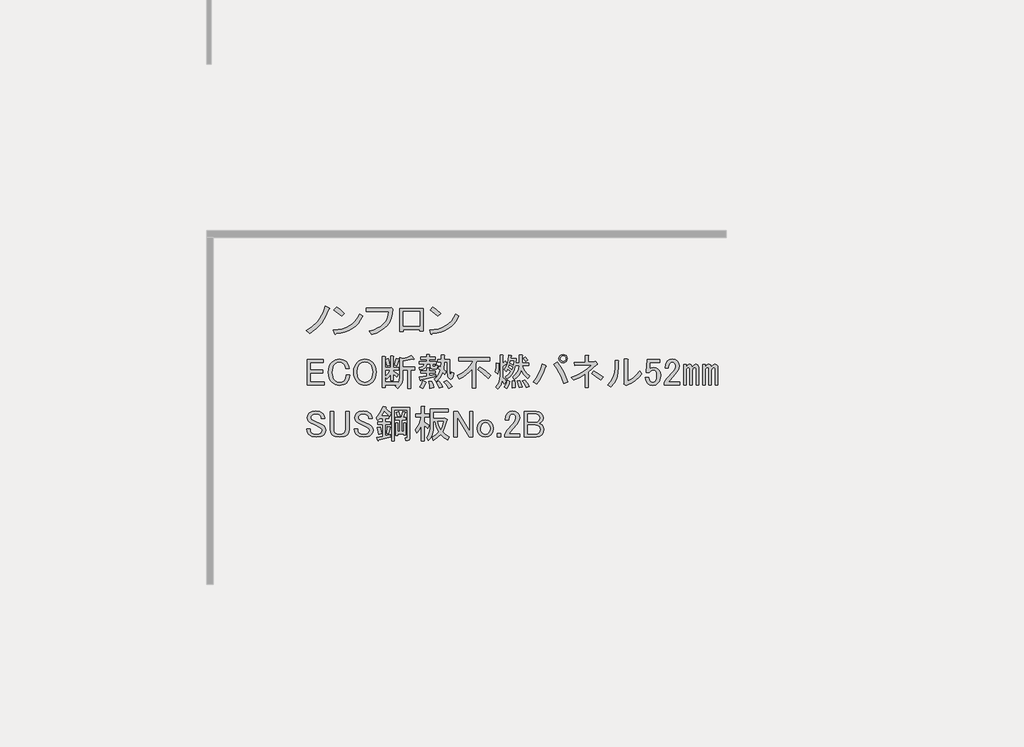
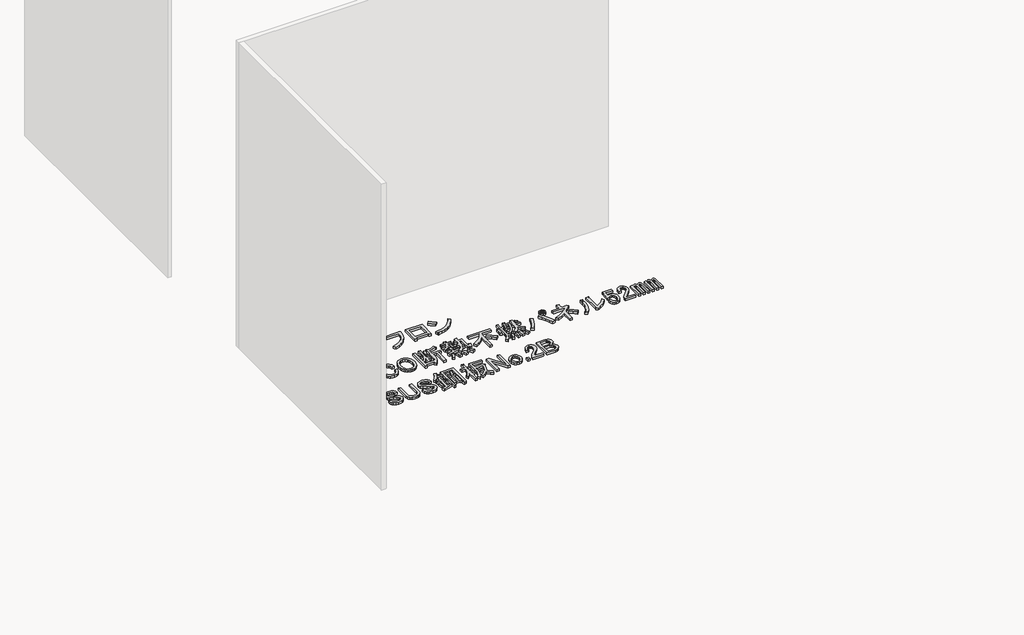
# One storey, part 104 of 117: 1 proxy.
"""IFC4 building model written with IfcOpenShell, lengths in millimetres."""

import ifcopenshell
import ifcopenshell.guid

model = None  # the IFC model being written
_history = None  # IfcOwnerHistory: only IFC2X3 demands one
_inside = {}  # id of a spatial element -> (the spatial element, [elements in it])
_under = {}  # id of a project, library or spatial element -> (it, [spatial elements below it])
_declared = {}  # id of a project -> (the project, [libraries it declares])
_typed = {}  # id of a type object -> (the type object, [elements of that type])
_made_of = {}  # id of a material, layer set ... -> (it, [elements and type objects made of it])


def new_model(schema):
    """Start an empty IFC model of exactly this schema.

    Asked for "IFC4X3", IfcOpenShell would pick the latest addendum, in which some entities
    have other attributes; the version numbers below select the first issue.
    IFC2X3 requires an IfcOwnerHistory on every rooted entity: one is made here for all.
    """
    global model, _history
    if schema == "IFC4X3":
        model = ifcopenshell.file(schema_version=(4, 3, 0, 0))
    else:
        model = ifcopenshell.file(schema=schema)
    _inside.clear()
    _under.clear()
    _declared.clear()
    _typed.clear()
    _made_of.clear()
    _history = None
    if model.schema == "IFC2X3":
        org = make("IfcOrganization", Name="unknown")
        user = make(
            "IfcPersonAndOrganization",
            ThePerson=make("IfcPerson", FamilyName="unknown"),
            TheOrganization=org,
        )
        app = make(
            "IfcApplication",
            ApplicationDeveloper=org,
            Version="unknown",
            ApplicationFullName="unknown",
            ApplicationIdentifier="unknown",
        )
        _history = make(
            "IfcOwnerHistory",
            OwningUser=user,
            OwningApplication=app,
            ChangeAction="ADDED",
            CreationDate=0,
        )
    return model


def make(cls, **values):
    """One entity of the class cls with the attributes given. An attribute that is None is left unset."""
    return model.create_entity(
        cls, **{name: value for name, value in values.items() if value is not None}
    )


def rooted(cls, **values):
    """An entity with a GlobalId (a new one), such as an element, a storey or a relation."""
    return make(cls, GlobalId=ifcopenshell.guid.new(), OwnerHistory=_history, **values)


def si_unit(unit_type, name, prefix=None):
    """IfcSIUnit, for example si_unit("LENGTHUNIT", "METRE", prefix="MILLI")."""
    return make("IfcSIUnit", UnitType=unit_type, Prefix=prefix, Name=name)


def assignment(units):
    """IfcUnitAssignment: the units of a project."""
    return None if units is None else make("IfcUnitAssignment", Units=units)


def point(xyz):
    """IfcCartesianPoint."""
    return None if xyz is None else make("IfcCartesianPoint", Coordinates=xyz)


def direction(xyz):
    """IfcDirection."""
    return None if xyz is None else make("IfcDirection", DirectionRatios=xyz)


def frame(location, z_axis=None, x_axis=None):
    """IfcAxis2Placement3D, a coordinate frame: its origin and axes. An axis left out is left unset."""
    return make(
        "IfcAxis2Placement3D",
        Location=point(location),
        Axis=direction(z_axis),
        RefDirection=direction(x_axis),
    )


def origin():
    """The frame at (0, 0, 0) with its axes left unset."""
    return frame((0.0, 0.0, 0.0))


def place(relative_to, where):
    """IfcLocalPlacement: puts the frame where relative to a parent placement (None: the world)."""
    return make(
        "IfcLocalPlacement", PlacementRelTo=relative_to, RelativePlacement=where
    )


def context(
    kind, dimensions, precision=None, world=None, true_north=None, identifier=None
):
    """IfcGeometricRepresentationContext, for example the 3D "Model" context."""
    return make(
        "IfcGeometricRepresentationContext",
        ContextIdentifier=identifier,
        ContextType=kind,
        CoordinateSpaceDimension=dimensions,
        Precision=precision,
        WorldCoordinateSystem=world,
        TrueNorth=true_north,
    )


def project(units=None, contexts=None):
    """IfcProject with its units and contexts."""
    return rooted(
        "IfcProject",
        Name="project",
        RepresentationContexts=contexts,
        UnitsInContext=assignment(units),
    )


def spatial(cls, under=None, at=None, **own):
    """A site, building, storey or space (cls), placed at a placement, below another one or the project."""
    s = rooted(cls, ObjectPlacement=at, **own)
    if under is not None:
        _under.setdefault(under.id(), (under, []))[1].append(s)
    return s


def polyline(points):
    """IfcPolyline through the points."""
    return make("IfcPolyline", Points=[point(p) for p in points])


def outline(outer, holes=None, kind="AREA"):
    """IfcArbitraryClosedProfileDef: a profile drawn as a closed curve; with holes, ...WithVoids."""
    if holes is None:
        return make("IfcArbitraryClosedProfileDef", ProfileType=kind, OuterCurve=outer)
    return make(
        "IfcArbitraryProfileDefWithVoids",
        ProfileType=kind,
        OuterCurve=outer,
        InnerCurves=holes,
    )


def extrude(swept, where, along, depth):
    """IfcExtrudedAreaSolid: the profile swept, set in the frame where, extruded along a direction by depth."""
    return make(
        "IfcExtrudedAreaSolid",
        SweptArea=swept,
        Position=where,
        ExtrudedDirection=direction(along),
        Depth=depth,
    )


def shape(context_of_items, identifier, shape_type, items):
    """IfcShapeRepresentation: the items that make up one representation, for example the "Body"."""
    return make(
        "IfcShapeRepresentation",
        ContextOfItems=context_of_items,
        RepresentationIdentifier=identifier,
        RepresentationType=shape_type,
        Items=items,
    )


def made_of(thing, what):
    """Note that an element or type object is made of a material, layer set ...; save() writes the relation."""
    if what is not None:
        _made_of.setdefault(what.id(), (what, []))[1].append(thing)
    return thing


def element(
    cls,
    number,
    at=None,
    inside=None,
    cuts=None,
    type_object=None,
    material=None,
    context=None,
    identifier="Body",
    shape_type=None,
    held_by="IfcProductDefinitionShape",
    body=None,
    shapes=None,
    **own,
):
    """One element of the class cls, such as IfcWall. Its Tag is "e" and its number.

    at: its placement. inside: the storey or other place that contains it. cuts: it is an
    opening in that element (IfcRelVoidsElement). A single representation is given by context,
    identifier, shape_type and body (its items); several are given by shapes. held_by: the class
    of the entity that holds the representations. save() writes the other relations.
    """
    e = rooted(cls, Tag="e%d" % number, ObjectPlacement=at, **own)
    if body is not None:
        shapes = [shape(context, identifier, shape_type, body)]
    if shapes is not None:
        e.Representation = make(held_by, Representations=shapes)
    if inside is not None:
        _inside.setdefault(inside.id(), (inside, []))[1].append(e)
    if cuts is not None:
        rooted(
            "IfcRelVoidsElement", RelatingBuildingElement=cuts, RelatedOpeningElement=e
        )
    if type_object is not None:
        _typed.setdefault(type_object.id(), (type_object, []))[1].append(e)
    return made_of(e, material)


def aggregate(whole, parts):
    """IfcRelAggregates: a whole, such as a stair, and the parts it consists of."""
    return rooted("IfcRelAggregates", RelatingObject=whole, RelatedObjects=parts)


def save(model, path):
    """Write the relations noted so far, then the file.

    IfcRelAggregates (storeys below a building ...), IfcRelContainedInSpatialStructure (elements
    in a storey), IfcRelDefinesByType, IfcRelAssociatesMaterial and IfcRelDeclares: one each for
    every whole, place, type object, material and project.
    """
    for whole, parts in _under.values():
        aggregate(whole, parts)
    for where, things in _inside.values():
        rooted(
            "IfcRelContainedInSpatialStructure",
            RelatedElements=things,
            RelatingStructure=where,
        )
    for kind, things in _typed.values():
        rooted("IfcRelDefinesByType", RelatedObjects=things, RelatingType=kind)
    for what, things in _made_of.values():
        rooted("IfcRelAssociatesMaterial", RelatedObjects=things, RelatingMaterial=what)
    for by, libraries in _declared.values():
        rooted("IfcRelDeclares", RelatingContext=by, RelatedDefinitions=libraries)
    model.write(path)


model = new_model("IFC4")

# Units and contexts
model_context = context("Model", 3, world=origin())
ifc_project = project(units=[si_unit("LENGTHUNIT", "METRE", prefix="MILLI")], contexts=[model_context])

# Site, building, storey
site = spatial("IfcSite", under=ifc_project)
building = spatial("IfcBuilding", under=site)
storey = spatial("IfcBuildingStorey", under=building, Name="レベル 1", Elevation=500.0)

# Proxy
placement = place(None, origin())
element("IfcBuildingElementProxy", 1, Name="200㎜\u3000MS Pゴシック", ObjectType="200㎜\u3000MS Pゴシック", at=placement, inside=storey, context=model_context, shape_type="SweptSolid", body=[
    extrude(outline(polyline([(40940.1706985, 7396.4503118), (40914.5952502, 7336.6784775), (40886.146156, 7290.7001434), (40844.4782907, 7245.2965385), (40795.3389462, 7207.939142), (40767.7519457, 7229.7788507), (40815.4544673, 7260.2394971), (40855.1107805, 7298.7463519), (40872.4963381, 7322.6694538), (40887.8703435, 7350.7593423), (40901.2327969, 7383.0160173), (40912.5836981, 7419.4394788), (40943.6190736, 7405.6459786), (40946.7800841, 7401.0481452), (40940.1706985, 7396.4503118)])), frame((0.0, 0.0, 500.0), z_axis=(0.0, 0.0, 1.0), x_axis=(1.0, 0.0, 0.0)), (0.0, 0.0, 1.0), 25.0),
    extrude(outline(polyline([(41039.8977052, 7341.2763109), (40981.2753292, 7388.4041033), (41000.8161212, 7412.5427287), (41028.1157571, 7392.7145721), (41061.7374138, 7363.1160196), (41039.8977052, 7341.2763109)])), frame((0.0, 0.0, 500.0), z_axis=(0.0, 0.0, 1.0), x_axis=(1.0, 0.0, 0.0)), (0.0, 0.0, 1.0), 25.0),
    extrude(outline(polyline([(41201.9713328, 7341.2763109), (41185.447869, 7311.534076), (41166.3381239, 7285.5275808), (41144.6420975, 7263.2568252), (41120.3597898, 7244.7218093), (41093.4912008, 7229.922533), (41064.0363306, 7218.8589964), (41031.995179, 7211.5311994), (40997.3677461, 7207.939142), (40991.6204544, 7199.8929336), (40985.8731626, 7205.6402253), (40976.6774958, 7235.5261425), (41012.5082679, 7238.2022252), (41045.2857912, 7244.5062859), (41075.0100658, 7254.4383244), (41101.6810916, 7267.9983409), (41125.2988687, 7285.1863354), (41145.863397, 7306.0023077), (41163.3746766, 7330.446258), (41177.8327074, 7358.5181862), (41201.9713328, 7341.2763109)])), frame((0.0, 0.0, 500.0), z_axis=(0.0, 0.0, 1.0), x_axis=(1.0, 0.0, 0.0)), (0.0, 0.0, 1.0), 25.0),
    extrude(outline(polyline([(41252.7314136, 7226.3304757), (41286.514713, 7236.0110702), (41316.0234641, 7248.3857078), (41341.257667, 7263.4543884), (41362.2173217, 7281.217112), (41378.902428, 7301.6738786), (41391.3129862, 7324.8246882), (41399.4489961, 7350.6695409), (41403.3104577, 7379.2084365), (41230.8917049, 7379.2084365), (41230.8917049, 7404.4965202), (41405.6093744, 7404.4965202), (41421.7017914, 7407.9448953), (41434.3458332, 7396.4503118), (41430.825617, 7359.9550091), (41422.5638851, 7326.9080815), (41409.5606375, 7297.3095289), (41391.8158742, 7271.1593514), (41369.3295952, 7248.457549), (41342.1018005, 7229.2041216), (41310.1324901, 7213.3990692), (41273.421664, 7201.0423919), (41252.7314136, 7226.3304757)])), frame((0.0, 0.0, 500.0), z_axis=(0.0, 0.0, 1.0), x_axis=(1.0, 0.0, 0.0)), (0.0, 0.0, 1.0), 25.0),
    extrude(outline(polyline([(41667.455987, 7227.479934), (41641.0184449, 7227.479934), (41641.0184449, 7240.1239759), (41513.4285679, 7240.1239759), (41513.4285679, 7221.7326423), (41486.9910258, 7221.7326423), (41486.9910258, 7401.0481452), (41667.455987, 7401.0481452), (41667.455987, 7227.479934)]), holes=[polyline([(41513.4285679, 7375.7600614), (41513.4285679, 7265.4120596), (41641.0184449, 7265.4120596), (41641.0184449, 7375.7600614), (41513.4285679, 7375.7600614)])]), frame((0.0, 0.0, 500.0), z_axis=(0.0, 0.0, 1.0), x_axis=(1.0, 0.0, 0.0)), (0.0, 0.0, 1.0), 25.0),
    extrude(outline(polyline([(41943.5099049, 7341.2763109), (41926.9864411, 7311.534076), (41907.876696, 7285.5275808), (41886.1806696, 7263.2568252), (41861.8983619, 7244.7218093), (41835.0297729, 7229.922533), (41805.5749026, 7218.8589964), (41773.5337511, 7211.5311994), (41738.9063182, 7207.939142), (41733.1590264, 7199.8929336), (41727.4117347, 7205.6402253), (41718.2160679, 7235.5261425), (41754.0468399, 7238.2022252), (41786.8243633, 7244.5062859), (41816.5486378, 7254.4383244), (41843.2196637, 7267.9983409), (41866.8374407, 7285.1863354), (41887.4019691, 7306.0023077), (41904.9132486, 7330.446258), (41919.3712795, 7358.5181862), (41943.5099049, 7341.2763109)])), frame((0.0, 0.0, 500.0), z_axis=(0.0, 0.0, 1.0), x_axis=(1.0, 0.0, 0.0)), (0.0, 0.0, 1.0), 25.0),
    extrude(outline(polyline([(41781.4362772, 7341.2763109), (41722.8139013, 7388.4041033), (41742.3546933, 7412.5427287), (41769.6543291, 7392.7145721), (41803.2759859, 7363.1160196), (41781.4362772, 7341.2763109)])), frame((0.0, 0.0, 500.0), z_axis=(0.0, 0.0, 1.0), x_axis=(1.0, 0.0, 0.0)), (0.0, 0.0, 1.0), 25.0),
    extrude(outline(polyline([(40773.4992375, 7007.9448953), (40899.9396562, 7007.9448953), (40899.9396562, 6986.1051866), (40799.9367796, 6986.1051866), (40799.9367796, 6925.183894), (40893.0429061, 6925.183894), (40893.0429061, 6903.3441853), (40799.9367796, 6903.3441853), (40799.9367796, 6833.2272258), (40905.686948, 6833.2272258), (40905.686948, 6811.3875171), (40773.4992375, 6811.3875171), (40773.4992375, 7007.9448953)])), frame((0.0, 0.0, 500.0), z_axis=(0.0, 0.0, 1.0), x_axis=(1.0, 0.0, 0.0)), (0.0, 0.0, 1.0), 25.0),
    extrude(outline(polyline([(40937.7798252, 6909.091477), (40939.5758538, 6933.014579), (40944.9639399, 6954.2077173), (40953.9440832, 6972.6708921), (40966.516284, 6988.4041033), (40991.5170031, 7004.7838848), (41022.8397432, 7010.243812), (41053.5877541, 7005.358614), (41076.8642858, 6990.70302), (41092.6693381, 6967.1391238), (41098.7039944, 6937.8279358), (41071.116994, 6937.8279358), (41066.231796, 6959.0929153), (41056.1740354, 6974.6106031), (41040.9437123, 6984.9557283), (41022.8397432, 6988.4041033), (41003.2989512, 6984.3809991), (40986.0570759, 6972.3116864), (40977.0050914, 6960.6015794), (40970.5393882, 6946.1615089), (40965.3668256, 6909.091477), (40970.5393882, 6872.0214452), (40977.0050914, 6857.5813746), (40986.0570759, 6845.8712677), (41002.7242221, 6834.6640487), (41022.8397432, 6830.9283091), (41043.242629, 6834.0893196), (41058.4729521, 6843.572351), (41070.5422648, 6863.1131429), (41074.5653691, 6889.550685), (41102.1523695, 6889.550685), (41095.8303486, 6854.7795699), (41088.7899162, 6840.6268639), (41079.1632025, 6828.6293924), (41068.3151893, 6820.0802959), (41055.3119417, 6813.9737984), (41022.8397432, 6809.0886004), (40991.5170031, 6814.5485276), (40966.516284, 6830.9283091), (40953.9440832, 6846.5896791), (40944.9639399, 6864.8373305), (40939.5758538, 6885.6712631), (40937.7798252, 6909.091477)])), frame((0.0, 0.0, 500.0), z_axis=(0.0, 0.0, 1.0), x_axis=(1.0, 0.0, 0.0)), (0.0, 0.0, 1.0), 25.0),
    extrude(outline(polyline([(41133.1417667, 6910.2409354), (41134.8659542, 6933.0864201), (41140.0385168, 6953.3456236), (41148.6594544, 6971.0185457), (41160.7287671, 6986.1051866), (41173.4446501, 6996.6658352), (41187.4536738, 7004.2091557), (41202.7558381, 7008.7351479), (41219.3511431, 7010.243812), (41235.946448, 7008.7351479), (41251.2486123, 7004.2091557), (41265.257636, 6996.6658352), (41277.973519, 6986.1051866), (41290.0428317, 6971.0185457), (41298.6637694, 6953.3456236), (41303.836332, 6933.0864201), (41305.5605195, 6910.2409354), (41303.836332, 6887.3954506), (41298.6637694, 6867.1362472), (41290.0428317, 6849.463325), (41277.973519, 6834.3766841), (41265.257636, 6823.8160355), (41251.2486123, 6816.2727151), (41235.946448, 6811.7467228), (41219.3511431, 6810.2380587), (41202.7558381, 6811.7467228), (41187.4536738, 6816.2727151), (41173.4446501, 6823.8160355), (41160.7287671, 6834.3766841), (41148.6594544, 6849.463325), (41140.0385168, 6867.1362472), (41134.8659542, 6887.3954506), (41133.1417667, 6910.2409354)]), holes=[polyline([(41219.3511431, 6988.4041033), (41198.6608927, 6984.0936345), (41180.2695591, 6971.162228), (41171.7204626, 6960.0268502), (41165.6139651, 6946.1615089), (41160.7287671, 6910.2409354), (41165.6139651, 6874.3203619), (41171.7204626, 6860.4550205), (41180.2695591, 6849.3196427), (41198.6608927, 6836.3882363), (41219.3511431, 6832.0777674), (41240.0413934, 6836.3882363), (41258.432727, 6849.3196427), (41266.9818235, 6860.4550205), (41273.088321, 6874.3203619), (41277.973519, 6910.2409354), (41273.088321, 6946.1615089), (41266.9818235, 6960.0268502), (41258.432727, 6971.162228), (41240.0413934, 6984.0936345), (41219.3511431, 6988.4041033)])]), frame((0.0, 0.0, 500.0), z_axis=(0.0, 0.0, 1.0), x_axis=(1.0, 0.0, 0.0)), (0.0, 0.0, 1.0), 25.0),
    extrude(outline(polyline([(41444.3691101, 6964.2654779), (41461.6109854, 7017.1405621), (41482.3012357, 7011.3932704), (41484.0254232, 7008.2322599), (41480.002319, 7005.6459786), (41462.7604437, 6957.3687278), (41444.3691101, 6964.2654779)])), frame((0.0, 0.0, 500.0), z_axis=(0.0, 0.0, 1.0), x_axis=(1.0, 0.0, 0.0)), (0.0, 0.0, 1.0), 25.0),
    extrude(outline(polyline([(41598.3965292, 7012.5427287), (41596.6723417, 7007.9448953), (41589.2008624, 7010.243812), (41512.1871528, 6997.5997701), (41512.1871528, 6948.173061), (41604.143821, 6948.173061), (41604.143821, 6926.3333523), (41573.1084455, 6926.3333523), (41573.1084455, 6786.0994334), (41550.1192785, 6786.0994334), (41550.1192785, 6926.3333523), (41512.1871528, 6926.3333523), (41512.1871528, 6876.9066432), (41509.6008716, 6849.1041193), (41501.8420277, 6824.3189236), (41488.9106212, 6802.551056), (41470.8066522, 6783.8005167), (41453.5647769, 6803.3413086), (41463.9099021, 6812.5369755), (41374.2521506, 6812.5369755), (41374.2521506, 6790.6972668), (41351.2629836, 6790.6972668), (41351.2629836, 7029.784604), (41373.1026922, 7029.784604), (41377.9878902, 7027.4856873), (41374.2521506, 7022.8878539), (41374.2521506, 6947.0236026), (41416.7821096, 6947.0236026), (41416.7821096, 7034.3824374), (41435.1734433, 7034.3824374), (41440.0586413, 7032.0835207), (41436.3229016, 7027.4856873), (41436.3229016, 6947.0236026), (41480.002319, 6947.0236026), (41480.002319, 6928.632269), (41436.3229016, 6928.632269), (41436.3229016, 6919.4366022), (41476.5539439, 6892.9990601), (41462.7604437, 6871.1593514), (41436.3229016, 6897.5968935), (41436.3229016, 6844.7218093), (41416.7821096, 6844.7218093), (41416.7821096, 6892.9990601), (41403.5633386, 6873.1709035), (41389.1951092, 6857.3658512), (41376.5510673, 6875.7571848), (41398.390776, 6899.8958102), (41415.6326513, 6928.632269), (41374.2521506, 6928.632269), (41374.2521506, 6834.3766841), (41471.9561105, 6834.3766841), (41471.9561105, 6820.5831839), (41484.887517, 6844.7218093), (41489.1979858, 6878.0561015), (41489.1979858, 7022.8878539), (41511.0376945, 7017.1405621), (41547.2456326, 7024.6120414), (41577.7062789, 7037.8308125), (41598.3965292, 7012.5427287)])), frame((0.0, 0.0, 500.0), z_axis=(0.0, 0.0, 1.0), x_axis=(1.0, 0.0, 0.0)), (0.0, 0.0, 1.0), 25.0),
    extrude(outline(polyline([(41390.3445675, 6956.2192695), (41377.7005257, 7006.7954369), (41397.2413176, 7013.6921871), (41405.0001615, 6989.5535617), (41409.8853595, 6963.1160196), (41390.3445675, 6956.2192695)])), frame((0.0, 0.0, 500.0), z_axis=(0.0, 0.0, 1.0), x_axis=(1.0, 0.0, 0.0)), (0.0, 0.0, 1.0), 25.0),
    extrude(outline(polyline([(41734.0326148, 6840.1239759), (41744.0903754, 6812.82434), (41748.9755734, 6790.6972668), (41720.2391146, 6784.949975), (41717.6528333, 6806.5023191), (41709.8939894, 6836.6756008), (41734.0326148, 6840.1239759)])), frame((0.0, 0.0, 500.0), z_axis=(0.0, 0.0, 1.0), x_axis=(1.0, 0.0, 0.0)), (0.0, 0.0, 1.0), 25.0),
    extrude(outline(polyline([(41790.356074, 6787.2488917), (41782.022501, 6811.9622463), (41768.5163654, 6833.2272258), (41789.2066157, 6841.2734343), (41806.1611264, 6819.7210902), (41817.9430745, 6796.4445585), (41790.356074, 6787.2488917)])), frame((0.0, 0.0, 500.0), z_axis=(0.0, 0.0, 1.0), x_axis=(1.0, 0.0, 0.0)), (0.0, 0.0, 1.0), 25.0),
    extrude(outline(polyline([(41689.2037391, 6835.5261425), (41692.6521141, 6830.6409445), (41686.9048224, 6827.479934), (41677.1344264, 6801.9044857), (41666.214572, 6782.6510583), (41643.225405, 6794.1456418), (41655.8694469, 6817.709538), (41666.214572, 6844.7218093), (41689.2037391, 6835.5261425)])), frame((0.0, 0.0, 500.0), z_axis=(0.0, 0.0, 1.0), x_axis=(1.0, 0.0, 0.0)), (0.0, 0.0, 1.0), 25.0),
    extrude(outline(polyline([(41721.3885729, 6972.3116864), (41696.1004892, 6972.3116864), (41691.5026558, 6954.8542877), (41681.1575306, 6941.5636755), (41665.0651137, 6932.4398498), (41643.225405, 6927.4828107), (41638.6275716, 6947.0236026), (41663.9156553, 6955.6445403), (41671.3871346, 6962.9723373), (41675.4102388, 6972.3116864), (41639.7770299, 6972.3116864), (41639.7770299, 6990.70302), (41693.8015725, 6990.70302), (41693.8015725, 7007.9448953), (41650.1221551, 7007.9448953), (41650.1221551, 7026.3362289), (41693.8015725, 7026.3362289), (41693.8015725, 7044.7275626), (41715.6412812, 7044.7275626), (41720.5264792, 7042.4286459), (41716.7907395, 7037.8308125), (41716.7907395, 7026.3362289), (41759.3206985, 7026.3362289), (41759.3206985, 7007.9448953), (41716.7907395, 7007.9448953), (41716.7907395, 6990.70302), (41769.6658237, 6990.70302), (41769.6658237, 6972.3116864), (41740.9293649, 6972.3116864), (41740.9293649, 6959.6676445), (41742.3661878, 6954.4950819), (41746.6766567, 6952.7708944), (41757.0217818, 6952.7708944), (41760.7575215, 6955.9319049), (41760.4701569, 6965.4149363), (41780.0109489, 6963.1160196), (41777.137303, 6941.5636755), (41771.8210581, 6936.1755894), (41763.9185319, 6934.3795608), (41739.7799066, 6934.3795608), (41725.9864063, 6939.2647588), (41721.3885729, 6953.9203528), (41721.3885729, 6972.3116864)])), frame((0.0, 0.0, 500.0), z_axis=(0.0, 0.0, 1.0), x_axis=(1.0, 0.0, 0.0)), (0.0, 0.0, 1.0), 25.0),
    extrude(outline(polyline([(41852.4268251, 6989.5535617), (41830.5871164, 6989.5535617), (41825.989283, 6932.0806441), (41845.5300749, 6913.6893104), (41835.1849498, 6891.8496017), (41819.0925328, 6907.9420187), (41799.8391054, 6870.2972576), (41769.6658237, 6837.8250592), (41752.4239484, 6858.5153095), (41767.5105893, 6870.4409399), (41780.585678, 6885.5275808), (41791.6492147, 6903.7752321), (41800.7011992, 6925.183894), (41783.4593239, 6940.1268525), (41791.5055324, 6957.3687278), (41805.2990326, 6947.0236026), (41807.5979493, 6989.5535617), (41780.0109489, 6989.5535617), (41780.0109489, 7007.9448953), (41807.5979493, 7007.9448953), (41807.5979493, 7042.4286459), (41829.437658, 7042.4286459), (41834.322856, 7040.1297292), (41830.5871164, 7035.5318957), (41830.5871164, 7007.9448953), (41871.967617, 7007.9448953), (41871.967617, 6911.3903937), (41875.4159921, 6887.2517683), (41878.6488437, 6885.2402162), (41881.4506484, 6888.4012267), (41885.7611173, 6910.2409354), (41905.3019092, 6903.3441853), (41900.775917, 6876.5474374), (41892.945232, 6860.5268616), (41881.8098542, 6855.2824579), (41867.3697836, 6860.8142262), (41860.8322393, 6868.1420232), (41856.1625647, 6879.780289), (41852.4268251, 6915.9882271), (41852.4268251, 6989.5535617)])), frame((0.0, 0.0, 500.0), z_axis=(0.0, 0.0, 1.0), x_axis=(1.0, 0.0, 0.0)), (0.0, 0.0, 1.0), 25.0),
    extrude(outline(polyline([(41651.2716134, 6850.4691011), (41649.2600613, 6845.5839031), (41645.5243217, 6847.020726), (41639.7770299, 6871.1593514), (41694.9510308, 6879.2055599), (41694.9510308, 6902.1947269), (41651.2716134, 6902.1947269), (41651.2716134, 6920.5860605), (41694.9510308, 6920.5860605), (41694.9510308, 6943.5752276), (41713.3423645, 6943.5752276), (41718.2275625, 6941.2763109), (41714.4918228, 6936.6784775), (41714.4918228, 6920.5860605), (41759.3206985, 6920.5860605), (41759.3206985, 6902.1947269), (41714.4918228, 6902.1947269), (41714.4918228, 6882.6539349), (41765.0679903, 6891.8496017), (41765.0679903, 6875.7571848), (41651.2716134, 6850.4691011)])), frame((0.0, 0.0, 500.0), z_axis=(0.0, 0.0, 1.0), x_axis=(1.0, 0.0, 0.0)), (0.0, 0.0, 1.0), 25.0),
    extrude(outline(polyline([(41848.97845, 6845.8712677), (41873.6918046, 6824.6062881), (41892.6578674, 6799.8929336), (41866.2203253, 6784.949975), (41846.9668979, 6814.5485276), (41828.2881997, 6834.3766841), (41848.97845, 6845.8712677)])), frame((0.0, 0.0, 500.0), z_axis=(0.0, 0.0, 1.0), x_axis=(1.0, 0.0, 0.0)), (0.0, 0.0, 1.0), 25.0),
    extrude(outline(polyline([(42167.3784135, 6861.9636846), (42128.2968295, 6900.1831748), (42086.9163289, 6929.7817274), (42103.0087458, 6950.4719777), (42146.6881632, 6922.3102481), (42188.0686638, 6883.8033933), (42167.3784135, 6861.9636846)])), frame((0.0, 0.0, 500.0), z_axis=(0.0, 0.0, 1.0), x_axis=(1.0, 0.0, 0.0)), (0.0, 0.0, 1.0), 25.0),
    extrude(outline(polyline([(41940.9351182, 7022.8878539), (42182.3213721, 7022.8878539), (42182.3213721, 6997.5997701), (42082.3184955, 6997.5997701), (42071.9733703, 6973.4611447), (42071.9733703, 6787.2488917), (42045.5358282, 6787.2488917), (42045.5358282, 6934.3795608), (42024.7018956, 6911.1030291), (42001.2816816, 6890.7001434), (41975.2751864, 6873.1709035), (41946.6824099, 6858.5153095), (41930.589993, 6884.9528516), (41970.174465, 6905.3557374), (42003.8679629, 6930.9311857), (42031.6704868, 6961.6791966), (42053.5820367, 6997.5997701), (41940.9351182, 6997.5997701), (41940.9351182, 7022.8878539)])), frame((0.0, 0.0, 500.0), z_axis=(0.0, 0.0, 1.0), x_axis=(1.0, 0.0, 0.0)), (0.0, 0.0, 1.0), 25.0),
    extrude(outline(polyline([(42354.7401249, 6788.3983501), (42355.3148541, 6815.4106213), (42352.4412082, 6843.572351), (42371.9820002, 6844.7218093), (42378.3040211, 6818.5716318), (42378.8787503, 6790.6972668), (42354.7401249, 6788.3983501)])), frame((0.0, 0.0, 500.0), z_axis=(0.0, 0.0, 1.0), x_axis=(1.0, 0.0, 0.0)), (0.0, 0.0, 1.0), 25.0),
    extrude(outline(polyline([(42335.1993329, 6840.1239759), (42326.5783953, 6809.6633296), (42312.2101659, 6782.6510583), (42292.6693739, 6795.2951002), (42306.7502387, 6820.0084547), (42316.8079993, 6848.1701844), (42335.1993329, 6840.1239759)])), frame((0.0, 0.0, 500.0), z_axis=(0.0, 0.0, 1.0), x_axis=(1.0, 0.0, 0.0)), (0.0, 0.0, 1.0), 25.0),
    extrude(outline(polyline([(42250.1394149, 6978.0589781), (42254.7372483, 6975.7600614), (42250.1394149, 6971.162228), (42248.9899565, 6931.5059149), (42243.2426647, 6897.5968935), (42224.8513311, 6910.2409354), (42230.5986229, 6944.7246859), (42231.7480812, 6981.5073532), (42250.1394149, 6978.0589781)])), frame((0.0, 0.0, 500.0), z_axis=(0.0, 0.0, 1.0), x_axis=(1.0, 0.0, 0.0)), (0.0, 0.0, 1.0), 25.0),
    extrude(outline(polyline([(42301.8650407, 6996.4503118), (42311.0607075, 6979.2084365), (42312.4975305, 6973.1737801), (42307.6123325, 6973.4611447), (42281.1747904, 6952.7708944), (42281.1747904, 6868.8604347), (42294.9682906, 6856.5037574), (42306.4628741, 6840.1239759), (42293.8188322, 6819.4337256), (42275.4274986, 6844.7218093), (42263.6455505, 6808.8012358), (42242.0932064, 6779.2026832), (42227.1502478, 6797.5940169), (42242.2368887, 6816.3445562), (42253.0130607, 6836.9629654), (42259.478764, 6859.4492444), (42261.6339984, 6883.8033933), (42261.6339984, 7041.2791875), (42280.025332, 7041.2791875), (42284.91053, 7038.9802708), (42281.1747904, 7034.3824374), (42281.1747904, 6975.7600614), (42301.8650407, 6996.4503118)])), frame((0.0, 0.0, 500.0), z_axis=(0.0, 0.0, 1.0), x_axis=(1.0, 0.0, 0.0)), (0.0, 0.0, 1.0), 25.0),
    extrude(outline(polyline([(42452.4440848, 7027.4856873), (42474.2837935, 7003.3470619), (42457.0419182, 6991.8524784), (42450.4325327, 7003.3470619), (42437.5011262, 7017.1405621), (42452.4440848, 7027.4856873)])), frame((0.0, 0.0, 500.0), z_axis=(0.0, 0.0, 1.0), x_axis=(1.0, 0.0, 0.0)), (0.0, 0.0, 1.0), 25.0),
    extrude(outline(polyline([(42462.78921, 6790.6972668), (42449.5704389, 6818.8589964), (42432.9032928, 6843.572351), (42451.2946265, 6851.6185594), (42470.2606893, 6828.6293924), (42485.778377, 6801.0423919), (42462.78921, 6790.6972668)])), frame((0.0, 0.0, 500.0), z_axis=(0.0, 0.0, 1.0), x_axis=(1.0, 0.0, 0.0)), (0.0, 0.0, 1.0), 25.0),
    extrude(outline(polyline([(42413.3625008, 6845.8712677), (42431.7538345, 6796.4445585), (42407.6152091, 6791.8467251), (42393.8217089, 6842.4228926), (42413.3625008, 6845.8712677)])), frame((0.0, 0.0, 500.0), z_axis=(0.0, 0.0, 1.0), x_axis=(1.0, 0.0, 0.0)), (0.0, 0.0, 1.0), 25.0),
    extrude(outline(polyline([(42474.2837935, 6860.8142262), (42443.5357826, 6891.2748726), (42422.5581677, 6925.183894), (42414.1527535, 6903.0568207), (42402.7300111, 6883.8033933), (42388.2899405, 6867.4236118), (42370.8325418, 6853.9174761), (42357.0390416, 6872.3088098), (42377.8729742, 6891.2030314), (42393.2469797, 6912.2524875), (42403.161058, 6935.457178), (42407.6152091, 6960.8171029), (42378.8787503, 6960.8171029), (42370.904383, 6930.2127742), (42357.3264062, 6902.7694561), (42338.1448199, 6878.4871484), (42313.3596242, 6857.3658512), (42300.7155823, 6873.4582681), (42326.5783953, 6895.0106122), (42342.096083, 6915.9882271), (42320.2563743, 6935.5290191), (42306.4628741, 6914.8387688), (42292.6693739, 6929.7817274), (42305.0978923, 6948.8196313), (42314.7964472, 6973.7485093), (42321.7650384, 7004.5683614), (42326.0036661, 7041.2791875), (42346.6939164, 7038.9802708), (42350.1422915, 7036.3939895), (42344.3949997, 7033.232979), (42342.096083, 7014.8416454), (42385.7755004, 7014.8416454), (42382.3271253, 6979.2084365), (42407.6152091, 6979.2084365), (42407.6152091, 7041.2791875), (42429.4549178, 7041.2791875), (42434.3401158, 7038.9802708), (42430.6043761, 7034.3824374), (42430.6043761, 6979.2084365), (42480.0310853, 6979.2084365), (42480.0310853, 6960.8171029), (42430.6043761, 6960.8171029), (42437.1419205, 6939.0492353), (42448.7083452, 6918.5745084), (42465.3036501, 6899.3929222), (42486.9278354, 6881.5044766), (42474.2837935, 6860.8142262)]), holes=[polyline([(42350.1422915, 6930.9311857), (42357.0390416, 6950.4719777), (42331.7509579, 6966.5643946), (42326.0036661, 6949.3225193), (42350.1422915, 6930.9311857)]), polyline([(42339.7971663, 6996.4503118), (42336.3487913, 6980.3578948), (42361.636875, 6966.5643946), (42366.2347084, 6996.4503118), (42339.7971663, 6996.4503118)])]), frame((0.0, 0.0, 500.0), z_axis=(0.0, 0.0, 1.0), x_axis=(1.0, 0.0, 0.0)), (0.0, 0.0, 1.0), 25.0),
    extrude(outline(polyline([(42699.5776305, 6987.254645), (42726.230696, 6950.5438188), (42748.7169751, 6912.8272167), (42767.0364675, 6874.1048384), (42781.1891735, 6834.3766841), (42750.153798, 6824.031559), (42734.7079514, 6867.1362472), (42717.1068704, 6905.643102), (42697.350555, 6939.5521234), (42675.4390051, 6968.8633113), (42699.5776305, 6987.254645)])), frame((0.0, 0.0, 500.0), z_axis=(0.0, 0.0, 1.0), x_axis=(1.0, 0.0, 0.0)), (0.0, 0.0, 1.0), 25.0),
    extrude(outline(polyline([(42612.2187958, 6960.8171029), (42616.2419, 6955.3571757), (42609.919879, 6950.4719777), (42597.9942486, 6915.0542922), (42582.9076078, 6881.217112), (42564.6599564, 6848.960437), (42543.2512946, 6818.2842672), (42516.8137525, 6835.5261425), (42540.018443, 6866.9925649), (42559.056347, 6900.4705394), (42573.9274644, 6935.960066), (42584.6317953, 6973.4611447), (42612.2187958, 6960.8171029)])), frame((0.0, 0.0, 500.0), z_axis=(0.0, 0.0, 1.0), x_axis=(1.0, 0.0, 0.0)), (0.0, 0.0, 1.0), 25.0),
    extrude(outline(polyline([(42745.5559646, 6981.5073532), (42732.9119227, 6983.8062699), (42722.5667975, 6990.70302), (42715.6700474, 7001.0481452), (42713.3711307, 7013.6921871), (42715.6700474, 7026.3362289), (42722.5667975, 7036.6813541), (42732.9119227, 7043.5781042), (42745.5559646, 7045.8770209), (42758.2000065, 7043.5781042), (42768.5451316, 7036.6813541), (42775.4418817, 7026.3362289), (42777.7407984, 7013.6921871), (42775.4418817, 7001.0481452), (42768.5451316, 6990.70302), (42758.2000065, 6983.8062699), (42745.5559646, 6981.5073532)]), holes=[polyline([(42745.5559646, 6993.0019367), (42753.8895376, 6994.4387597), (42760.4989232, 6998.7492285), (42764.809392, 7005.358614), (42766.2462149, 7013.6921871), (42764.809392, 7022.0257601), (42760.4989232, 7028.6351456), (42753.8895376, 7032.9456145), (42745.5559646, 7034.3824374), (42737.2223915, 7032.9456145), (42730.613006, 7028.6351456), (42726.3025372, 7022.0257601), (42724.8657143, 7013.6921871), (42726.3025372, 7005.358614), (42730.613006, 6998.7492285), (42737.2223915, 6994.4387597), (42745.5559646, 6993.0019367)])]), frame((0.0, 0.0, 500.0), z_axis=(0.0, 0.0, 1.0), x_axis=(1.0, 0.0, 0.0)), (0.0, 0.0, 1.0), 25.0),
    extrude(outline(polyline([(42989.2411352, 6991.8524784), (42996.1378853, 6994.1513951), (43008.7819272, 6976.9095198), (43009.9313856, 6970.8748634), (43004.1840938, 6968.8633113), (42940.9638844, 6912.5398521), (42940.9638844, 6791.8467251), (42914.5263423, 6791.8467251), (42914.5263423, 6894.1485184), (42874.2953, 6870.0098931), (42829.4664243, 6848.1701844), (42809.9256323, 6868.8604347), (42855.4729195, 6888.3293855), (42896.7097379, 6911.1030291), (42933.6360874, 6937.1813655), (42966.2519682, 6966.5643946), (42836.3631744, 6960.8171029), (42832.9147993, 6986.1051866), (42914.5263423, 6988.4041033), (42914.5263423, 7040.1297292), (42937.5155094, 7040.1297292), (42943.5501657, 7036.6813541), (42940.9638844, 7030.9340623), (42940.9638844, 6989.5535617), (42989.2411352, 6991.8524784)])), frame((0.0, 0.0, 500.0), z_axis=(0.0, 0.0, 1.0), x_axis=(1.0, 0.0, 0.0)), (0.0, 0.0, 1.0), 25.0),
    extrude(outline(polyline([(43035.2194693, 6848.1701844), (42998.1494375, 6877.4813723), (42965.1025098, 6898.7463519), (42982.3443851, 6920.5860605), (43021.1386045, 6897.3095289), (43054.7602613, 6871.1593514), (43035.2194693, 6848.1701844)])), frame((0.0, 0.0, 500.0), z_axis=(0.0, 0.0, 1.0), x_axis=(1.0, 0.0, 0.0)), (0.0, 0.0, 1.0), 25.0),
    extrude(outline(polyline([(43242.2139293, 6841.2734343), (43266.9991251, 6853.4864292), (43290.7785447, 6870.5846222), (43313.5521883, 6892.5680132), (43335.3200559, 6919.4366022), (43351.4124728, 6897.5968935), (43328.1359412, 6869.7943696), (43301.9857636, 6846.1586322), (43272.9619403, 6826.6896814), (43241.064471, 6811.3875171), (43231.8688042, 6806.7896837), (43213.4774705, 6820.5831839), (43215.7763872, 6826.3304757), (43215.7763872, 7011.3932704), (43239.9150126, 7011.3932704), (43245.6623044, 7007.9448953), (43242.2139293, 7002.1976035), (43242.2139293, 6841.2734343)])), frame((0.0, 0.0, 500.0), z_axis=(0.0, 0.0, 1.0), x_axis=(1.0, 0.0, 0.0)), (0.0, 0.0, 1.0), 25.0),
    extrude(outline(polyline([(43088.1865102, 6810.2380587), (43113.3309116, 6839.4774056), (43131.2911984, 6872.0214452), (43142.0673704, 6907.8701775), (43145.6594278, 6947.0236026), (43145.6594278, 6998.7492285), (43169.7980532, 6998.7492285), (43175.5453449, 6995.3008534), (43172.0969699, 6989.5535617), (43172.0969699, 6948.173061), (43168.2893891, 6902.4102504), (43156.8666467, 6861.67632), (43137.8287427, 6825.9712699), (43111.1756772, 6795.2951002), (43088.1865102, 6810.2380587)])), frame((0.0, 0.0, 500.0), z_axis=(0.0, 0.0, 1.0), x_axis=(1.0, 0.0, 0.0)), (0.0, 0.0, 1.0), 25.0),
    extrude(outline(polyline([(43392.7929735, 7007.9448953), (43491.6463917, 7007.9448953), (43491.6463917, 6986.1051866), (43414.6326821, 6986.1051866), (43414.6326821, 6982.6568116), (43411.1843071, 6940.1268525), (43410.0348487, 6933.2301024), (43425.5525365, 6943.5752276), (43442.2196826, 6947.0236026), (43463.1972975, 6943.287863), (43480.1518082, 6932.0806441), (43492.2211209, 6912.2524875), (43496.2442251, 6884.9528516), (43491.0716626, 6850.4691011), (43484.6059593, 6836.6756008), (43475.5539748, 6825.1810173), (43457.4500058, 6813.1117046), (43435.3229325, 6809.0886004), (43414.3453176, 6812.82434), (43397.3908069, 6824.031559), (43385.3214942, 6842.7102572), (43378.9994732, 6868.8604347), (43405.4370153, 6868.8604347), (43409.4601196, 6850.1817365), (43416.9315989, 6837.8250592), (43424.6904427, 6832.6524966), (43434.1734741, 6830.9283091), (43446.5301514, 6832.9398612), (43456.0131828, 6838.9745175), (43465.4962142, 6855.9290282), (43468.6572247, 6881.5044766), (43466.0709434, 6905.643102), (43458.3120995, 6920.5860605), (43450.8406202, 6925.7586231), (43442.2196826, 6927.4828107), (43429.2882761, 6924.8965294), (43418.0810572, 6917.1376855), (43408.8853904, 6906.7925603), (43385.8962233, 6906.7925603), (43387.0456817, 6914.8387688), (43392.7929735, 7003.3470619), (43392.7929735, 7007.9448953)])), frame((0.0, 0.0, 500.0), z_axis=(0.0, 0.0, 1.0), x_axis=(1.0, 0.0, 0.0)), (0.0, 0.0, 1.0), 25.0),
    extrude(outline(polyline([(43530.7279757, 6941.2763109), (43535.3258091, 6972.599051), (43549.1193093, 6995.3008534), (43565.4990909, 7006.5080724), (43584.7525182, 7010.243812), (43607.4543207, 7006.5080724), (43624.9835606, 6995.3008534), (43636.1907795, 6978.6337073), (43639.9265191, 6958.5181862), (43635.6160503, 6932.6553732), (43622.6846439, 6910.2409354), (43589.3503517, 6872.3088098), (43570.959018, 6851.6185594), (43557.1655178, 6833.2272258), (43643.3748942, 6833.2272258), (43643.3748942, 6811.3875171), (43526.1301423, 6811.3875171), (43526.1301423, 6830.9283091), (43532.1647986, 6844.7218093), (43545.6709343, 6863.1131429), (43592.7987267, 6914.8387688), (43607.4543207, 6936.1037483), (43612.3395187, 6958.5181862), (43610.040602, 6971.162228), (43603.1438519, 6981.5073532), (43595.385008, 6986.6799158), (43585.9019766, 6988.4041033), (43577.281039, 6986.6799158), (43569.8095597, 6981.5073532), (43560.3265283, 6965.1275717), (43557.1655178, 6941.2763109), (43530.7279757, 6941.2763109)])), frame((0.0, 0.0, 500.0), z_axis=(0.0, 0.0, 1.0), x_axis=(1.0, 0.0, 0.0)), (0.0, 0.0, 1.0), 25.0),
    extrude(outline(polyline([(43692.8016033, 6810.2380587), (43673.2608114, 6810.2380587), (43673.2608114, 6967.713853), (43692.8016033, 6967.713853), (43692.8016033, 6950.4719777), (43704.870916, 6965.9896654), (43718.0896871, 6971.162228), (43727.2853539, 6969.7254051), (43734.182104, 6965.4149363), (43741.0788541, 6951.621436), (43754.0102606, 6966.27703), (43767.5163962, 6971.162228), (43775.8499693, 6969.7254051), (43782.4593548, 6965.4149363), (43787.6319174, 6956.7939986), (43789.3561049, 6944.7246859), (43789.3561049, 6810.2380587), (43769.8153129, 6810.2380587), (43769.8153129, 6934.3795608), (43767.2290316, 6943.8625922), (43759.4701878, 6947.0236026), (43749.1250626, 6942.4257692), (43743.0904062, 6933.8048316), (43741.0788541, 6924.0344356), (43741.0788541, 6810.2380587), (43721.5380621, 6810.2380587), (43721.5380621, 6934.3795608), (43718.9517808, 6943.8625922), (43711.192937, 6947.0236026), (43700.8478118, 6942.4257692), (43694.8131555, 6933.8048316), (43692.8016033, 6924.0344356), (43692.8016033, 6810.2380587)])), frame((0.0, 0.0, 500.0), z_axis=(0.0, 0.0, 1.0), x_axis=(1.0, 0.0, 0.0)), (0.0, 0.0, 1.0), 25.0),
    extrude(outline(polyline([(43914.6470653, 6971.162228), (43922.9806383, 6969.7254051), (43929.5900239, 6965.4149363), (43934.7625864, 6956.7939986), (43936.486774, 6944.7246859), (43936.486774, 6810.2380587), (43916.945982, 6810.2380587), (43916.945982, 6934.3795608), (43914.3597007, 6943.8625922), (43906.6008568, 6947.0236026), (43896.2557317, 6942.4257692), (43890.2210753, 6933.8048316), (43888.2095232, 6924.0344356), (43888.2095232, 6810.2380587), (43868.6687312, 6810.2380587), (43868.6687312, 6934.3795608), (43866.0824499, 6943.8625922), (43858.323606, 6947.0236026), (43847.9784809, 6942.4257692), (43841.9438245, 6933.8048316), (43839.9322724, 6924.0344356), (43839.9322724, 6810.2380587), (43820.3914804, 6810.2380587), (43820.3914804, 6967.713853), (43839.9322724, 6967.713853), (43839.9322724, 6950.4719777), (43852.0015851, 6965.9896654), (43865.2203561, 6971.162228), (43874.416023, 6969.7254051), (43881.3127731, 6965.4149363), (43888.2095232, 6951.621436), (43901.1409296, 6966.27703), (43914.6470653, 6971.162228)])), frame((0.0, 0.0, 500.0), z_axis=(0.0, 0.0, 1.0), x_axis=(1.0, 0.0, 0.0)), (0.0, 0.0, 1.0), 25.0),
    extrude(outline(polyline([(40775.7981542, 6556.2192695), (40779.8212584, 6576.6221552), (40791.8905711, 6594.1513951), (40812.2934569, 6606.2207078), (40841.3172803, 6610.243812), (40872.6400204, 6605.6459786), (40895.3418228, 6591.8524784), (40907.4111355, 6574.3232385), (40911.4342397, 6553.9203528), (40884.9966976, 6553.9203528), (40882.6977809, 6566.5643946), (40875.8010308, 6576.9095198), (40862.5822598, 6584.6683637), (40843.616197, 6587.254645), (40823.2133112, 6584.9557283), (40810.2819048, 6578.0589781), (40804.2472484, 6569.4380405), (40802.2356963, 6559.6676445), (40806.8335297, 6544.7246859), (40827.52378, 6533.2301024), (40887.2956143, 6506.7925603), (40904.5374896, 6495.2979768), (40914.020521, 6481.5044766), (40917.1815315, 6465.4120596), (40913.1584273, 6444.1470801), (40901.0891146, 6426.3304757), (40891.1031951, 6418.7871552), (40878.3873121, 6413.3990692), (40844.7656553, 6409.0886004), (40811.1439985, 6414.261163), (40797.5660217, 6420.7268662), (40786.1432794, 6429.7788507), (40774.9360604, 6448.1701844), (40771.2003208, 6473.4582681), (40797.6378629, 6473.4582681), (40799.9367796, 6455.6416637), (40806.8335297, 6443.572351), (40822.9259466, 6434.0893196), (40845.9151137, 6430.9283091), (40866.8927286, 6433.801955), (40881.5483226, 6442.4228926), (40888.4450727, 6451.6185594), (40890.7439894, 6460.8142262), (40889.0198019, 6470.2972576), (40883.8472393, 6478.0561015), (40865.4559057, 6489.550685), (40835.5699885, 6503.3441853), (40802.2356963, 6518.2871438), (40786.1432794, 6528.632269), (40778.3844355, 6540.7015817), (40775.7981542, 6556.2192695)])), frame((0.0, 0.0, 500.0), z_axis=(0.0, 0.0, 1.0), x_axis=(1.0, 0.0, 0.0)), (0.0, 0.0, 1.0), 25.0),
    extrude(outline(polyline([(40951.2054987, 6607.9448953), (40977.6430408, 6607.9448953), (40977.6430408, 6470.0098931), (40980.2293221, 6455.3542991), (40987.988166, 6443.572351), (41003.5058537, 6434.0893196), (41024.7708332, 6430.9283091), (41046.0358128, 6434.0893196), (41061.5535005, 6443.572351), (41069.3123444, 6455.3542991), (41071.8986257, 6470.0098931), (41071.8986257, 6607.9448953), (41098.3361678, 6607.9448953), (41098.3361678, 6468.8604347), (41094.3130635, 6445.8712677), (41082.2437508, 6427.479934), (41071.7549434, 6419.4337256), (41058.6798546, 6413.6864338), (41024.7708332, 6409.0886004), (40990.8618119, 6413.6864338), (40977.7867231, 6419.4337256), (40967.2979156, 6427.479934), (40955.2286029, 6445.8712677), (40951.2054987, 6468.8604347), (40951.2054987, 6607.9448953)])), frame((0.0, 0.0, 500.0), z_axis=(0.0, 0.0, 1.0), x_axis=(1.0, 0.0, 0.0)), (0.0, 0.0, 1.0), 25.0),
    extrude(outline(polyline([(41140.6822135, 6556.2192695), (41144.7053177, 6576.6221552), (41156.7746304, 6594.1513951), (41177.1775161, 6606.2207078), (41206.2013395, 6610.243812), (41237.5240796, 6605.6459786), (41260.2258821, 6591.8524784), (41272.2951948, 6574.3232385), (41276.318299, 6553.9203528), (41249.8807569, 6553.9203528), (41247.5818402, 6566.5643946), (41240.6850901, 6576.9095198), (41227.466319, 6584.6683637), (41208.5002562, 6587.254645), (41188.0973705, 6584.9557283), (41175.165964, 6578.0589781), (41169.1313077, 6569.4380405), (41167.1197556, 6559.6676445), (41171.717589, 6544.7246859), (41192.4078393, 6533.2301024), (41252.1796736, 6506.7925603), (41269.4215489, 6495.2979768), (41278.9045803, 6481.5044766), (41282.0655908, 6465.4120596), (41278.0424865, 6444.1470801), (41265.9731738, 6426.3304757), (41255.9872544, 6418.7871552), (41243.2713714, 6413.3990692), (41209.6497146, 6409.0886004), (41176.0280578, 6414.261163), (41162.450081, 6420.7268662), (41151.0273386, 6429.7788507), (41139.8201197, 6448.1701844), (41136.0843801, 6473.4582681), (41162.5219222, 6473.4582681), (41164.8208389, 6455.6416637), (41171.717589, 6443.572351), (41187.8100059, 6434.0893196), (41210.7991729, 6430.9283091), (41231.7767879, 6433.801955), (41246.4323819, 6442.4228926), (41253.329132, 6451.6185594), (41255.6280487, 6460.8142262), (41253.9038611, 6470.2972576), (41248.7312986, 6478.0561015), (41230.3399649, 6489.550685), (41200.4540478, 6503.3441853), (41167.1197556, 6518.2871438), (41151.0273386, 6528.632269), (41143.2684948, 6540.7015817), (41140.6822135, 6556.2192695)])), frame((0.0, 0.0, 500.0), z_axis=(0.0, 0.0, 1.0), x_axis=(1.0, 0.0, 0.0)), (0.0, 0.0, 1.0), 25.0),
    extrude(outline(polyline([(41410.3451429, 6568.8633113), (41368.9646422, 6612.5427287), (41347.1249335, 6573.4611447), (41402.2989344, 6573.4611447), (41402.2989344, 6555.0698111), (41375.8613923, 6555.0698111), (41375.8613923, 6526.3333523), (41413.7935179, 6526.3333523), (41413.7935179, 6507.9420187), (41375.8613923, 6507.9420187), (41375.8613923, 6420.5831839), (41414.9429763, 6430.9283091), (41417.241893, 6411.3875171), (41325.2852248, 6386.0994334), (41322.9863081, 6380.3521416), (41318.3884747, 6383.8005167), (41311.4917246, 6406.7896837), (41356.3206003, 6415.9853505), (41356.3206003, 6507.9420187), (41318.3884747, 6507.9420187), (41318.3884747, 6526.3333523), (41356.3206003, 6526.3333523), (41356.3206003, 6555.0698111), (41334.4808916, 6555.0698111), (41319.537933, 6536.6784775), (41306.8938912, 6557.3687278), (41335.0556208, 6595.0134888), (41359.7689754, 6645.8770209), (41381.6086841, 6640.1297292), (41385.0570591, 6636.3939895), (41379.3097674, 6634.3824374), (41378.160309, 6630.9340623), (41422.9891847, 6593.0019367), (41410.3451429, 6568.8633113)])), frame((0.0, 0.0, 500.0), z_axis=(0.0, 0.0, 1.0), x_axis=(1.0, 0.0, 0.0)), (0.0, 0.0, 1.0), 25.0),
    extrude(outline(polyline([(41478.1631856, 6605.6459786), (41485.3473003, 6590.4156554), (41490.8072275, 6570.0127697), (41473.5653522, 6564.2654779), (41462.0707687, 6601.0481452), (41478.1631856, 6605.6459786)])), frame((0.0, 0.0, 500.0), z_axis=(0.0, 0.0, 1.0), x_axis=(1.0, 0.0, 0.0)), (0.0, 0.0, 1.0), 25.0),
    extrude(outline(polyline([(41531.0382698, 6604.4965202), (41533.6245511, 6601.0481452), (41527.5898948, 6597.5997701), (41514.9458529, 6559.6676445), (41535.6361032, 6559.6676445), (41535.6361032, 6541.2763109), (41504.6007277, 6541.2763109), (41504.6007277, 6452.7680178), (41519.5436863, 6452.7680178), (41519.5436863, 6520.5860605), (41535.6361032, 6520.5860605), (41535.6361032, 6426.3304757), (41519.5436863, 6426.3304757), (41519.5436863, 6434.3766841), (41473.5653522, 6434.3766841), (41473.5653522, 6421.7326423), (41457.4729353, 6421.7326423), (41457.4729353, 6518.2871438), (41473.5653522, 6518.2871438), (41473.5653522, 6452.7680178), (41488.5083108, 6452.7680178), (41488.5083108, 6541.2763109), (41452.8751019, 6541.2763109), (41452.8751019, 6559.6676445), (41498.853436, 6559.6676445), (41509.1985611, 6609.0943537), (41531.0382698, 6604.4965202)])), frame((0.0, 0.0, 500.0), z_axis=(0.0, 0.0, 1.0), x_axis=(1.0, 0.0, 0.0)), (0.0, 0.0, 1.0), 25.0),
    extrude(outline(polyline([(41425.2881014, 6637.8308125), (41565.5220204, 6637.8308125), (41565.5220204, 6397.5940169), (41561.7862807, 6386.3867979), (41550.5790618, 6382.6510583), (41534.4866449, 6382.6510583), (41529.8888115, 6404.490767), (41541.383395, 6404.490767), (41544.83177, 6405.6402253), (41545.9812284, 6409.0886004), (41545.9812284, 6619.4394788), (41444.8288934, 6619.4394788), (41444.8288934, 6380.3521416), (41425.2881014, 6380.3521416), (41425.2881014, 6637.8308125)])), frame((0.0, 0.0, 500.0), z_axis=(0.0, 0.0, 1.0), x_axis=(1.0, 0.0, 0.0)), (0.0, 0.0, 1.0), 25.0),
    extrude(outline(polyline([(41413.7935179, 6489.550685), (41416.3797992, 6486.3896746), (41412.6440596, 6483.8033933), (41404.5978511, 6436.6756008), (41386.2065175, 6438.9745175), (41391.9538092, 6492.9990601), (41413.7935179, 6489.550685)])), frame((0.0, 0.0, 500.0), z_axis=(0.0, 0.0, 1.0), x_axis=(1.0, 0.0, 0.0)), (0.0, 0.0, 1.0), 25.0),
    extrude(outline(polyline([(41336.7798083, 6488.4012267), (41348.2743918, 6436.6756008), (41327.5841415, 6430.9283091), (41316.089558, 6482.6539349), (41336.7798083, 6488.4012267)])), frame((0.0, 0.0, 500.0), z_axis=(0.0, 0.0, 1.0), x_axis=(1.0, 0.0, 0.0)), (0.0, 0.0, 1.0), 25.0),
    extrude(outline(polyline([(41736.7913148, 6409.0886004), (41765.5277736, 6426.3304757), (41787.3674823, 6448.1701844), (41769.5508779, 6490.1254142), (41759.7804819, 6530.9311857), (41747.13644, 6530.9311857), (41747.13644, 6506.7925603), (41744.693841, 6465.0528539), (41737.366044, 6430.6409445), (41725.153049, 6403.5568321), (41708.054856, 6383.8005167), (41694.2613558, 6406.7896837), (41707.3364446, 6424.1752413), (41716.6757937, 6446.4459968), (41722.2794031, 6473.6019504), (41724.147273, 6505.643102), (41724.147273, 6626.3362289), (41860.9328169, 6626.3362289), (41860.9328169, 6604.4965202), (41747.13644, 6604.4965202), (41747.13644, 6552.7708944), (41826.4490663, 6552.7708944), (41832.1963581, 6558.5181862), (41851.73715, 6544.7246859), (41853.173973, 6540.9889463), (41848.288775, 6536.6784775), (41835.9320977, 6490.1254142), (41817.2533995, 6449.3196427), (41836.2194623, 6430.9283091), (41867.829567, 6412.5369755), (41858.6339002, 6388.3983501), (41830.7595351, 6404.490767), (41802.3104409, 6429.7788507), (41777.8844509, 6405.3528608), (41745.9869817, 6384.949975), (41736.7913148, 6409.0886004)]), holes=[polyline([(41781.6201906, 6530.9311857), (41789.666399, 6497.8842581), (41802.3104409, 6470.0098931), (41814.9544828, 6496.1600706), (41823.0006912, 6530.9311857), (41781.6201906, 6530.9311857)])]), frame((0.0, 0.0, 500.0), z_axis=(0.0, 0.0, 1.0), x_axis=(1.0, 0.0, 0.0)), (0.0, 0.0, 1.0), 25.0),
    extrude(outline(polyline([(41654.0303135, 6380.3521416), (41654.0303135, 6499.8958102), (41636.213709, 6465.6994242), (41617.2476462, 6443.572351), (41605.7530627, 6464.2626013), (41622.994938, 6486.9644037), (41636.7884382, 6511.3903937), (41647.1335634, 6537.5405712), (41654.0303135, 6565.4149363), (41612.6498128, 6565.4149363), (41612.6498128, 6587.254645), (41654.0303135, 6587.254645), (41654.0303135, 6647.0264793), (41675.8700222, 6647.0264793), (41680.7552202, 6644.7275626), (41677.0194805, 6640.1297292), (41677.0194805, 6587.254645), (41714.9516061, 6587.254645), (41714.9516061, 6565.4149363), (41677.0194805, 6565.4149363), (41677.0194805, 6525.183894), (41714.9516061, 6498.7463519), (41704.606481, 6475.7571848), (41677.0194805, 6498.7463519), (41677.0194805, 6380.3521416), (41654.0303135, 6380.3521416)])), frame((0.0, 0.0, 500.0), z_axis=(0.0, 0.0, 1.0), x_axis=(1.0, 0.0, 0.0)), (0.0, 0.0, 1.0), 25.0),
    extrude(outline(polyline([(41904.6122342, 6607.9448953), (41933.348693, 6607.9448953), (42025.3053612, 6452.7680178), (42025.3053612, 6607.9448953), (42051.7429033, 6607.9448953), (42051.7429033, 6411.3875171), (42023.0064445, 6411.3875171), (41931.0497763, 6566.5643946), (41931.0497763, 6411.3875171), (41904.6122342, 6411.3875171), (41904.6122342, 6607.9448953)])), frame((0.0, 0.0, 500.0), z_axis=(0.0, 0.0, 1.0), x_axis=(1.0, 0.0, 0.0)), (0.0, 0.0, 1.0), 25.0),
    extrude(outline(polyline([(42084.8932822, 6475.7571848), (42089.7784802, 6503.0568207), (42104.4340742, 6525.183894), (42123.6875015, 6538.1153004), (42146.9640332, 6542.4257692), (42170.2405648, 6538.1153004), (42189.4939922, 6525.183894), (42204.1495862, 6503.0568207), (42209.0347842, 6475.7571848), (42204.1495862, 6448.457549), (42189.4939922, 6426.3304757), (42170.2405648, 6413.3990692), (42146.9640332, 6409.0886004), (42123.6875015, 6413.3990692), (42104.4340742, 6426.3304757), (42089.7784802, 6448.457549), (42084.8932822, 6475.7571848)]), holes=[polyline([(42146.9640332, 6521.7355189), (42134.3199913, 6519.4366022), (42123.9748661, 6512.5398521), (42113.629741, 6496.4474352), (42110.1813659, 6475.7571848), (42113.3423764, 6455.3542991), (42122.8254078, 6440.1239759), (42134.0326267, 6432.365132), (42146.9640332, 6429.7788507), (42159.8954396, 6432.365132), (42171.1026586, 6440.1239759), (42180.58569, 6455.3542991), (42183.7467004, 6475.7571848), (42180.2983254, 6496.4474352), (42169.9532002, 6512.5398521), (42159.6080751, 6519.4366022), (42146.9640332, 6521.7355189)])]), frame((0.0, 0.0, 500.0), z_axis=(0.0, 0.0, 1.0), x_axis=(1.0, 0.0, 0.0)), (0.0, 0.0, 1.0), 25.0),
    extrude(outline(polyline([(42239.564398, 6436.6756008), (42266.0019401, 6436.6756008), (42266.0019401, 6411.3875171), (42239.564398, 6411.3875171), (42239.564398, 6436.6756008)])), frame((0.0, 0.0, 500.0), z_axis=(0.0, 0.0, 1.0), x_axis=(1.0, 0.0, 0.0)), (0.0, 0.0, 1.0), 25.0),
    extrude(outline(polyline([(42300.7155823, 6541.2763109), (42305.3134158, 6572.599051), (42319.106916, 6595.3008534), (42335.4866975, 6606.5080724), (42354.7401249, 6610.243812), (42377.4419273, 6606.5080724), (42394.9711672, 6595.3008534), (42406.1783861, 6578.6337073), (42409.9141258, 6558.5181862), (42405.603657, 6532.6553732), (42392.6722505, 6510.2409354), (42359.3379583, 6472.3088098), (42340.9466247, 6451.6185594), (42327.1531244, 6433.2272258), (42413.3625008, 6433.2272258), (42413.3625008, 6411.3875171), (42296.1177489, 6411.3875171), (42296.1177489, 6430.9283091), (42302.1524053, 6444.7218093), (42315.6585409, 6463.1131429), (42362.7863334, 6514.8387688), (42377.4419273, 6536.1037483), (42382.3271253, 6558.5181862), (42380.0282086, 6571.162228), (42373.1314585, 6581.5073532), (42365.3726147, 6586.6799158), (42355.8895832, 6588.4041033), (42347.2686456, 6586.6799158), (42339.7971663, 6581.5073532), (42330.3141349, 6565.1275717), (42327.1531244, 6541.2763109), (42300.7155823, 6541.2763109)])), frame((0.0, 0.0, 500.0), z_axis=(0.0, 0.0, 1.0), x_axis=(1.0, 0.0, 0.0)), (0.0, 0.0, 1.0), 25.0),
    extrude(outline(polyline([(42447.8462514, 6607.9448953), (42539.8029196, 6607.9448953), (42560.7805345, 6604.2091557), (42577.7350452, 6593.0019367), (42588.0801704, 6576.9095198), (42591.5285454, 6556.2192695), (42588.3675349, 6539.2647588), (42578.8845035, 6525.183894), (42561.6426283, 6514.8387688), (42583.482337, 6502.1947269), (42593.8274621, 6486.6770392), (42597.2758372, 6467.7109763), (42592.9653684, 6444.4344447), (42580.0339619, 6425.1810173), (42562.7920866, 6414.8358922), (42538.6534612, 6411.3875171), (42447.8462514, 6411.3875171), (42447.8462514, 6607.9448953)]), holes=[polyline([(42474.2837935, 6586.1051866), (42474.2837935, 6525.183894), (42536.3545445, 6525.183894), (42546.9870343, 6527.1954461), (42555.8953365, 6533.2301024), (42562.7920866, 6543.8625922), (42565.0910033, 6557.3687278), (42562.7920866, 6569.1506759), (42555.8953365, 6579.2084365), (42548.1364926, 6584.3809991), (42538.6534612, 6586.1051866), (42474.2837935, 6586.1051866)]), polyline([(42474.2837935, 6503.3441853), (42474.2837935, 6433.2272258), (42532.9061695, 6433.2272258), (42548.1364926, 6435.5261425), (42559.3437116, 6442.4228926), (42567.1025554, 6453.9174761), (42569.6888367, 6467.7109763), (42567.38992, 6482.0792058), (42560.4931699, 6492.9990601), (42548.4238572, 6500.757904), (42532.9061695, 6503.3441853), (42474.2837935, 6503.3441853)])]), frame((0.0, 0.0, 500.0), z_axis=(0.0, 0.0, 1.0), x_axis=(1.0, 0.0, 0.0)), (0.0, 0.0, 1.0), 25.0),
])

save(model, "model.ifc")
